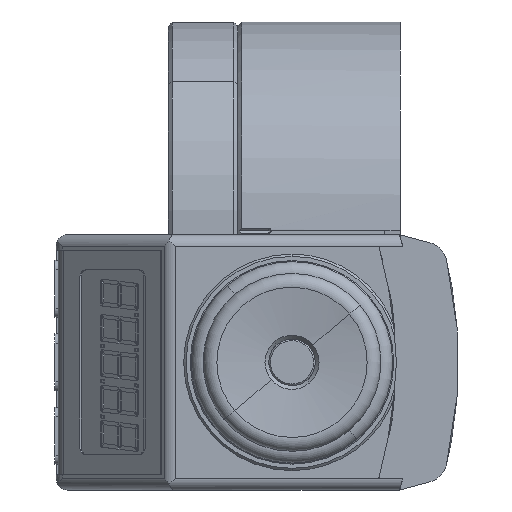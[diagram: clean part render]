
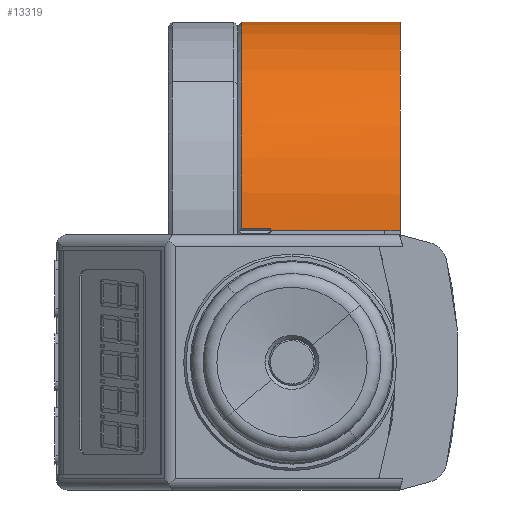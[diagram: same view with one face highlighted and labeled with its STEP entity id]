
A CAD part, left-side view. The second image highlights one B-rep face of the part: STEP entity #13319.
In plain terms, the highlighted cylindrical face has radius 27 mm (diameter 54 mm), a partial arc.
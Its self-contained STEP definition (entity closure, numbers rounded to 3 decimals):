
#822 = VECTOR ( 'NONE', #11152, 1000. ) ;
#1222 = CARTESIAN_POINT ( 'NONE',  ( -26.998, 17., 0.298 ) ) ;
#2772 = EDGE_LOOP ( 'NONE', ( #6263, #10015, #17249, #20641, #5249, #20442, #11270, #16728 ) ) ;
#2956 = DIRECTION ( 'NONE',  ( 0., -1., 0. ) ) ;
#3024 = CARTESIAN_POINT ( 'NONE',  ( 0., 0., 0. ) ) ;
#3080 = VECTOR ( 'NONE', #28015, 1000. ) ;
#3251 = VERTEX_POINT ( 'NONE', #22778 ) ;
#3439 = VECTOR ( 'NONE', #28935, 1000. ) ;
#3620 = CARTESIAN_POINT ( 'NONE',  ( -26.998, 20.5, 0.298 ) ) ;
#3736 = CARTESIAN_POINT ( 'NONE',  ( 0., 20.5, 0. ) ) ;
#4830 = AXIS2_PLACEMENT_3D ( 'NONE', #13155, #29189, #29288 ) ;
#5057 = CARTESIAN_POINT ( 'NONE',  ( 27., 0., 0. ) ) ;
#5149 = VECTOR ( 'NONE', #2956, 1000. ) ;
#5249 = ORIENTED_EDGE ( 'NONE', *, *, #10588, .T. ) ;
#5340 = DIRECTION ( 'NONE',  ( 1., 0., 0. ) ) ;
#5653 = VERTEX_POINT ( 'NONE', #7227 ) ;
#6049 = DIRECTION ( 'NONE',  ( 1., 0., 0. ) ) ;
#6263 = ORIENTED_EDGE ( 'NONE', *, *, #9242, .F. ) ;
#6785 = VERTEX_POINT ( 'NONE', #5057 ) ;
#7161 = CARTESIAN_POINT ( 'NONE',  ( -27., 16.733, 0.156 ) ) ;
#7227 = CARTESIAN_POINT ( 'NONE',  ( -27., 16.7, 0. ) ) ;
#8078 = CARTESIAN_POINT ( 'NONE',  ( -27., 21., 0. ) ) ;
#8473 = EDGE_CURVE ( 'NONE', #3251, #29905, #16383, .T. ) ;
#9242 = EDGE_CURVE ( 'NONE', #23871, #6785, #13100, .T. ) ;
#9471 = CARTESIAN_POINT ( 'NONE',  ( -27., 16.7, 0. ) ) ;
#9495 = B_SPLINE_CURVE_WITH_KNOTS ( 'NONE', 3,
 ( #18641, #16317, #20969, #7161, #23278, #9471 ),
 .UNSPECIFIED., .F., .F.,
 ( 4, 2, 4 ),
 ( 0.002, 0.002, 0.002 ),
 .UNSPECIFIED. ) ;
#9553 = CARTESIAN_POINT ( 'NONE',  ( 27., 21., 0. ) ) ;
#9564 = LINE ( 'NONE', #8078, #3439 ) ;
#10015 = ORIENTED_EDGE ( 'NONE', *, *, #24318, .F. ) ;
#10367 = VECTOR ( 'NONE', #14198, 1000. ) ;
#10577 = LINE ( 'NONE', #11393, #5149 ) ;
#10588 = EDGE_CURVE ( 'NONE', #20599, #5653, #9495, .T. ) ;
#10683 = CYLINDRICAL_SURFACE ( 'NONE', #4830, 27. ) ;
#11152 = DIRECTION ( 'NONE',  ( 0., -1., 0. ) ) ;
#11270 = ORIENTED_EDGE ( 'NONE', *, *, #25271, .T. ) ;
#11393 = CARTESIAN_POINT ( 'NONE',  ( -26.998, 21., 0.298 ) ) ;
#13100 = LINE ( 'NONE', #24957, #822 ) ;
#13155 = CARTESIAN_POINT ( 'NONE',  ( 0., 21., 0. ) ) ;
#13319 = ADVANCED_FACE ( 'NONE', ( #23655 ), #10683, .T. ) ;
#14023 = CIRCLE ( 'NONE', #24691, 27. ) ;
#14198 = DIRECTION ( 'NONE',  ( 0., -1., 0. ) ) ;
#14315 = LINE ( 'NONE', #9553, #10367 ) ;
#14610 = CARTESIAN_POINT ( 'NONE',  ( 27., 2., 0. ) ) ;
#15200 = EDGE_CURVE ( 'NONE', #29905, #20599, #10577, .T. ) ;
#16317 = CARTESIAN_POINT ( 'NONE',  ( -26.998, 16.921, 0.298 ) ) ;
#16383 = CIRCLE ( 'NONE', #28313, 27. ) ;
#16545 = CARTESIAN_POINT ( 'NONE',  ( -27., 21., 0. ) ) ;
#16728 = ORIENTED_EDGE ( 'NONE', *, *, #18892, .T. ) ;
#16860 = VERTEX_POINT ( 'NONE', #27221 ) ;
#17249 = ORIENTED_EDGE ( 'NONE', *, *, #8473, .T. ) ;
#18641 = CARTESIAN_POINT ( 'NONE',  ( -26.998, 17., 0.298 ) ) ;
#18892 = EDGE_CURVE ( 'NONE', #23060, #6785, #14023, .T. ) ;
#19181 = DIRECTION ( 'NONE',  ( 0., 1., 0. ) ) ;
#19877 = DIRECTION ( 'NONE',  ( 0., -1., 0. ) ) ;
#20442 = ORIENTED_EDGE ( 'NONE', *, *, #25051, .T. ) ;
#20511 = CARTESIAN_POINT ( 'NONE',  ( -27., 0., 0. ) ) ;
#20599 = VERTEX_POINT ( 'NONE', #1222 ) ;
#20641 = ORIENTED_EDGE ( 'NONE', *, *, #15200, .T. ) ;
#20969 = CARTESIAN_POINT ( 'NONE',  ( -26.999, 16.844, 0.267 ) ) ;
#22778 = CARTESIAN_POINT ( 'NONE',  ( 27., 20.5, 0. ) ) ;
#23060 = VERTEX_POINT ( 'NONE', #20511 ) ;
#23278 = CARTESIAN_POINT ( 'NONE',  ( -27., 16.7, 0.079 ) ) ;
#23655 = FACE_OUTER_BOUND ( 'NONE', #2772, .T. ) ;
#23871 = VERTEX_POINT ( 'NONE', #14610 ) ;
#24318 = EDGE_CURVE ( 'NONE', #3251, #23871, #14315, .T. ) ;
#24691 = AXIS2_PLACEMENT_3D ( 'NONE', #3024, #19181, #5340 ) ;
#24957 = CARTESIAN_POINT ( 'NONE',  ( 27., 21., 0. ) ) ;
#25051 = EDGE_CURVE ( 'NONE', #5653, #16860, #27596, .T. ) ;
#25271 = EDGE_CURVE ( 'NONE', #16860, #23060, #9564, .T. ) ;
#27221 = CARTESIAN_POINT ( 'NONE',  ( -27., 2., 0. ) ) ;
#27596 = LINE ( 'NONE', #16545, #3080 ) ;
#28015 = DIRECTION ( 'NONE',  ( 0., -1., 0. ) ) ;
#28313 = AXIS2_PLACEMENT_3D ( 'NONE', #3736, #19877, #6049 ) ;
#28935 = DIRECTION ( 'NONE',  ( 0., -1., 0. ) ) ;
#29189 = DIRECTION ( 'NONE',  ( 0., -1., 0. ) ) ;
#29288 = DIRECTION ( 'NONE',  ( -1., 0., 0. ) ) ;
#29905 = VERTEX_POINT ( 'NONE', #3620 ) ;
